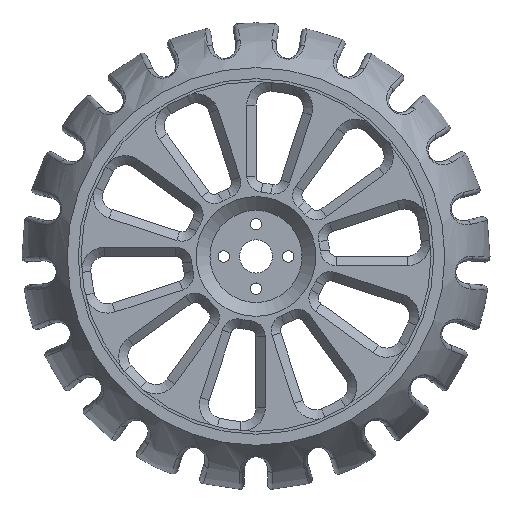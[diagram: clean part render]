
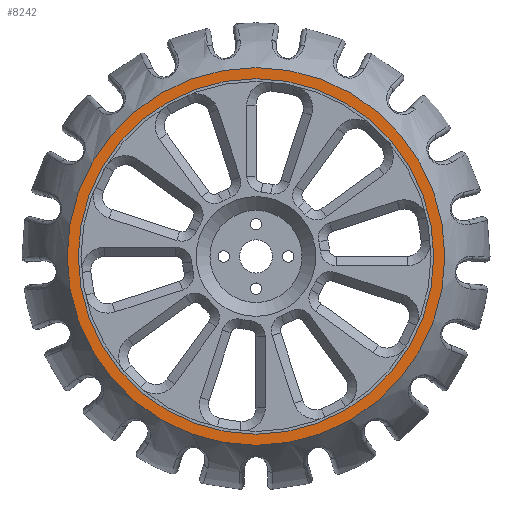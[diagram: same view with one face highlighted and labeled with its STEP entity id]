
A CAD part, front view. The second image highlights one B-rep face of the part: STEP entity #8242.
In plain terms, the highlighted planar face has unit normal (0, -1, 0).
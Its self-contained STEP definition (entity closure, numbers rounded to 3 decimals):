
#337=FACE_BOUND('',#2208,.T.);
#861=CIRCLE('',#8961,41.);
#1014=CIRCLE('',#9240,38.6);
#1626=FACE_OUTER_BOUND('',#2207,.T.);
#2207=EDGE_LOOP('',(#7460));
#2208=EDGE_LOOP('',(#7461));
#3880=VERTEX_POINT('',#21886);
#3953=VERTEX_POINT('',#26960);
#4883=EDGE_CURVE('',#3880,#3880,#861,.T.);
#5129=EDGE_CURVE('',#3953,#3953,#1014,.T.);
#7460=ORIENTED_EDGE('',*,*,#4883,.T.);
#7461=ORIENTED_EDGE('',*,*,#5129,.T.);
#7768=PLANE('',#9239);
#8242=ADVANCED_FACE('',(#1626,#337),#7768,.T.);
#8961=AXIS2_PLACEMENT_3D('',#21887,#11022,#11023);
#9239=AXIS2_PLACEMENT_3D('',#26959,#11644,#11645);
#9240=AXIS2_PLACEMENT_3D('',#26961,#11646,#11647);
#11022=DIRECTION('center_axis',(0.,-1.,0.));
#11023=DIRECTION('ref_axis',(1.,0.,0.));
#11644=DIRECTION('center_axis',(0.,-1.,0.));
#11645=DIRECTION('ref_axis',(1.,0.,0.));
#11646=DIRECTION('center_axis',(0.,1.,0.));
#11647=DIRECTION('ref_axis',(1.,0.,0.));
#21886=CARTESIAN_POINT('',(0.,-52.9,41.));
#21887=CARTESIAN_POINT('Origin',(0.,-52.9,0.));
#26959=CARTESIAN_POINT('Origin',(0.,-52.9,0.));
#26960=CARTESIAN_POINT('',(-38.6,-52.9,0.));
#26961=CARTESIAN_POINT('Origin',(0.,-52.9,0.));
